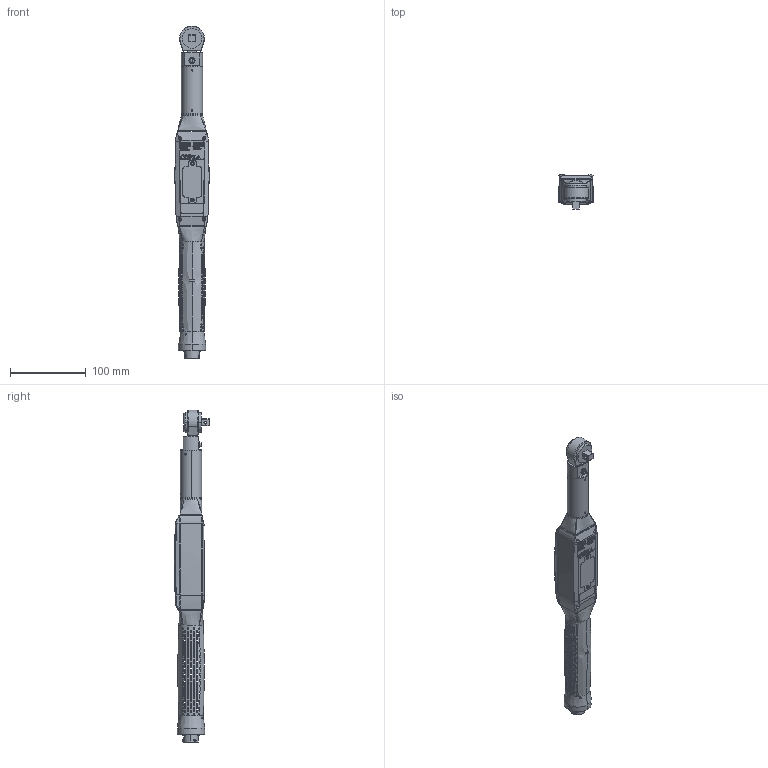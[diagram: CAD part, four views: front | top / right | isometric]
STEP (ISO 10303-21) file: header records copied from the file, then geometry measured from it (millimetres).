
FILE_DESCRIPTION((''),'2;1');
FILE_NAME('6152210400_DIM','2021-12-06T10:40:16',('S00000450'),(''),'CREO PARAMETRIC BY PTC INC, 2021072','CREO PARAMETRIC BY PTC INC, 2021072','');
FILE_SCHEMA(('AP242_MANAGED_MODEL_BASED_3D_ENGINEERING_MIM_LF { 1 0 10303 442 1 1 4 }'));
Length unit declared in the file: millimetre
Products named in the file (1): 6152210400_DIM
Bounding box: 45.16 x 46.55 x 439.32 mm (x, y, z)
Surface area: 55928.6 mm2 (no closed solid volume)
Topology: 0 solids, 1023 shells, 5030 faces, 21836 edges, 17228 vertices
Faces by surface type: extrusion 2370, plane 2072, bspline 367, cylinder 160, cone 33, sphere 28
Entity records: 452976 total; most frequent: CARTESIAN_POINT 265007, ORIENTED_EDGE 26612, EDGE_CURVE 21818, DIRECTION 19136, VERTEX_POINT 17228, B_SPLINE_CURVE_WITH_KNOTS 12942, VECTOR 12682, LINE 10312
